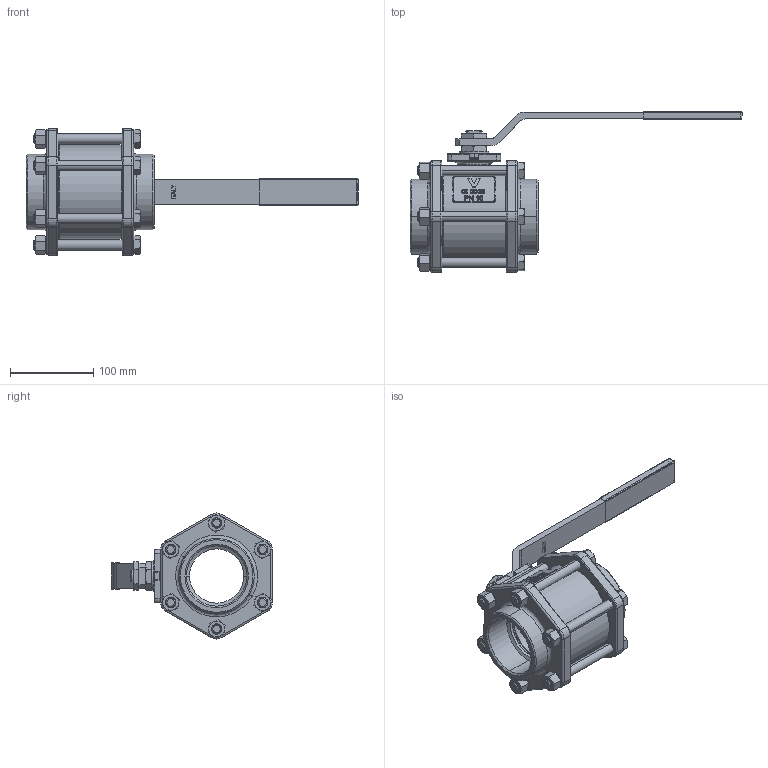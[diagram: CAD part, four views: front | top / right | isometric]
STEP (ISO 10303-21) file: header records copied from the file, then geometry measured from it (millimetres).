
FILE_DESCRIPTION (( 'STEP AP203' ), '1' );
FILE_NAME ('71000012.STEP', '2010-11-13T10:32:38', ( '.' ), ( '.' ), 'SwSTEP 2.0', 'SolidWorks 2008', '' );
FILE_SCHEMA (( 'CONFIG_CONTROL_DESIGN' ));
Length unit declared in the file: millimetre
Products named in the file (1): 71000012
Bounding box: 397.7 x 193 x 151.17 mm (x, y, z)
Volume: 1215841.3 mm3; surface area: 219233.9 mm2
Topology: 8 solids, 8 shells, 4061 faces, 11547 edges, 7538 vertices
Faces by surface type: plane 1776, cone 1681, cylinder 299, bspline 297, sphere 8
Entity records: 151384 total; most frequent: CARTESIAN_POINT 50783, ORIENTED_EDGE 23046, DIRECTION 19057, EDGE_CURVE 11523, VERTEX_POINT 7538, AXIS2_PLACEMENT_3D 7430, VECTOR 4197, LINE 4197
